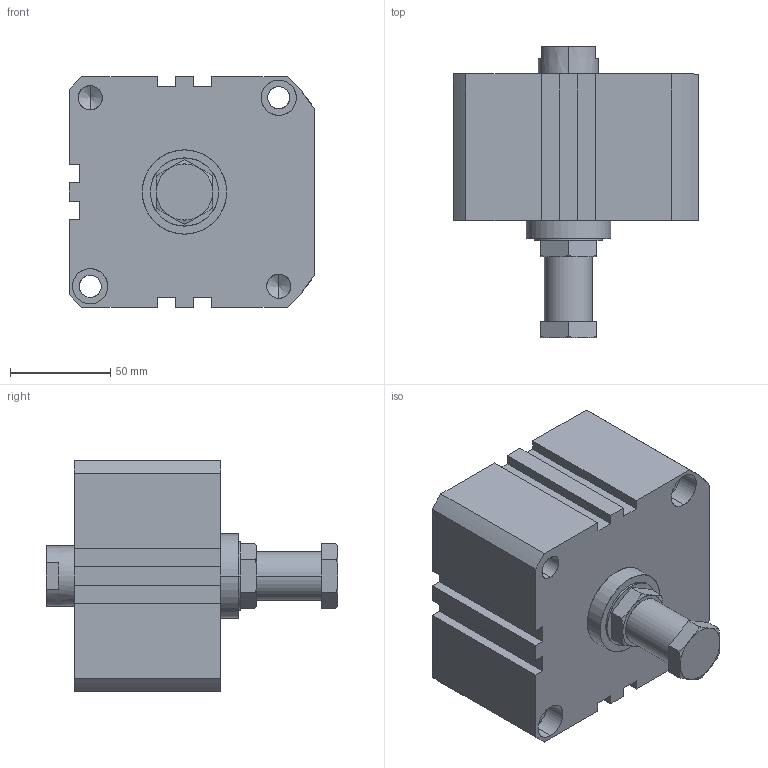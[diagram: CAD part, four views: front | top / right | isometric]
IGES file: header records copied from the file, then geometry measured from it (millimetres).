
Start section: SolidWorks IGES file using analytic representation for surfaces
Global section: file name: C:\Users\Toshiba\Desktop\XGA2-100-10.IGS; native system: SolidWorks 2014; preprocessor: SolidWorks 2014; author: Toshiba; date: 160524.104150; units: millimetre
Bounding box: 122.5 x 145.5 x 115 mm (x, y, z)
Surface area: 88978.8 mm2 (no closed solid volume)
Topology: 0 solids, 0 shells, 147 faces, 2699 edges, 2685 vertices
Faces by surface type: bspline 76, revolution 71
